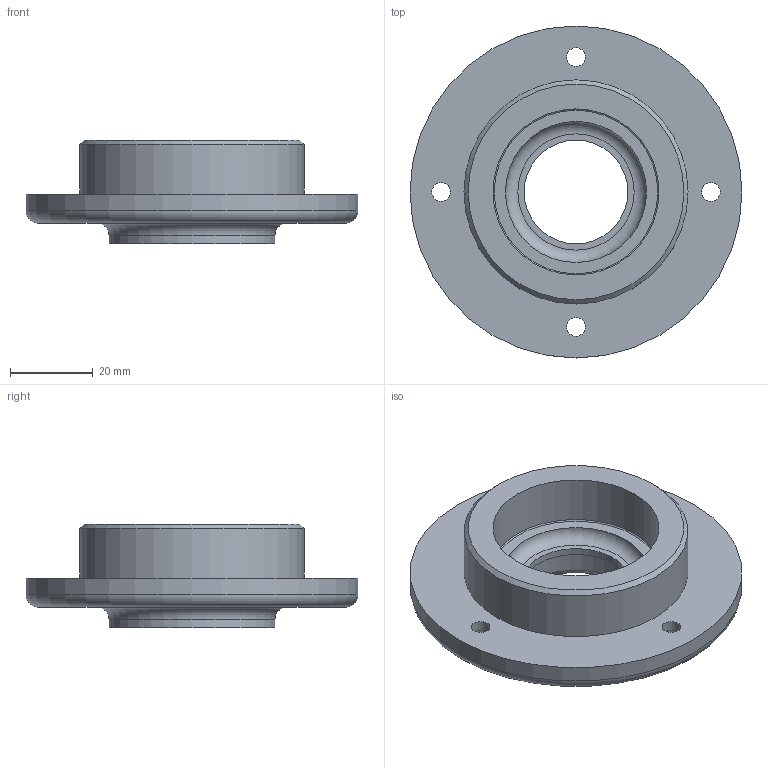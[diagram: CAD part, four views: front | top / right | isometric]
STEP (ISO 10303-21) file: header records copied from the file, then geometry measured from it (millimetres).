
FILE_DESCRIPTION(/* description */ (''),/* implementation_level */ '2;1');
FILE_NAME(/* name */ '',/* time_stamp */ '2026-07-02T09:05:22+09:00',/* author */ ('jhkim'),/* organization */ ('한국ATC센터'),/* preprocessor_version */ 'ST-DEVELOPER v20.1',/* originating_system */ 'Autodesk Inventor 2027',/* authorisation */ '');
FILE_SCHEMA (('AUTOMOTIVE_DESIGN { 1 0 10303 214 3 1 1 }'));
Length unit declared in the file: millimetre
Products named in the file (1): 커버
Bounding box: 80 x 80 x 25 mm (x, y, z)
Volume: 44728.6 mm3; surface area: 16116.5 mm2
Topology: 1 solids, 1 shells, 32 faces, 58 edges, 37 vertices
Faces by surface type: cylinder 14, plane 11, torus 5, cone 2
Full cylindrical faces by diameter (mm): 4.5 x4, 8 x4, 25 x1, 32 x1, 40 x2, 54 x1, 80 x1
Entity records: 867 total; most frequent: DIRECTION 166, CARTESIAN_POINT 128, ORIENTED_EDGE 116, AXIS2_PLACEMENT_3D 75, EDGE_CURVE 58, EDGE_LOOP 51, CIRCLE 42, VERTEX_POINT 37
